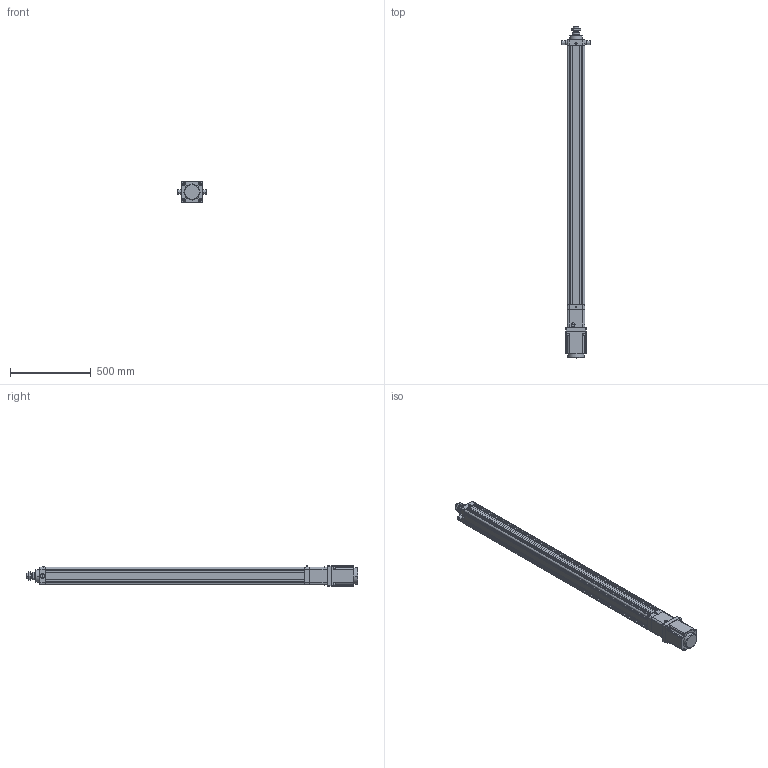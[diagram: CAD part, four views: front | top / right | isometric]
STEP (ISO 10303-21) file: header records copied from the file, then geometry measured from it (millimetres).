
FILE_DESCRIPTION((''),'2;1');
FILE_NAME('HE100-D-P_ASM','2020-05-11T',('ASUS20200'),(''),'CREO PARAMETRIC BY PTC INC, 2014190','CREO PARAMETRIC BY PTC INC, 2014190','');
FILE_SCHEMA(('CONFIG_CONTROL_DESIGN'));
Length unit declared in the file: millimetre
Products named in the file (21): HE100-D-P-001-X1; HE100-D-P-002-X1; HE100-D-P-003-X1; 30305J; JDB506030; SLM-01; YZ-M6X1; HE100-100-D-P-X1_ASM; HE100-D-009-X1; HE100-D-010-X1-130N; M8X20; 130ST-M10010; TD-8; M8X40; SKT-20; HE100-D-P-005-X1; HE100-D-P-004-X1; HE80-D-P-008-X1; LGLM-M10-25; HE100-TC; HE100-D-P_ASM
Assembly tree (35 placements, depth 3):
  HE100-D-P_ASM
    HE100-100-D-P-X1_ASM
      HE100-D-P-001-X1
      HE100-D-P-002-X1
      HE100-D-P-003-X1
      30305J  x2
      JDB506030
      SLM-01
      YZ-M6X1
    HE100-D-009-X1
    HE100-D-010-X1-130N
    M8X20  x4
    130ST-M10010
    TD-8  x4
    M8X40  x4
    SKT-20  x2
    HE100-D-P-005-X1
    HE100-D-P-004-X1
    HE80-D-P-008-X1
    LGLM-M10-25  x4
    HE100-TC  x2
Bounding box: 180 x 2061 x 130 mm (x, y, z)
Volume: 9333566.5 mm3; surface area: 2585046.7 mm2
Topology: 34 solids, 59 shells, 1596 faces, 3727 edges, 2282 vertices
Faces by surface type: plane 547, cylinder 471, cone 462, torus 82, sphere 30, bspline 4
Entity records: 36838 total; most frequent: CARTESIAN_POINT 7306, DIRECTION 6564, ORIENTED_EDGE 5632, EDGE_CURVE 2869, AXIS2_PLACEMENT_3D 2557, VERTEX_POINT 1763, VECTOR 1450, LINE 1450
